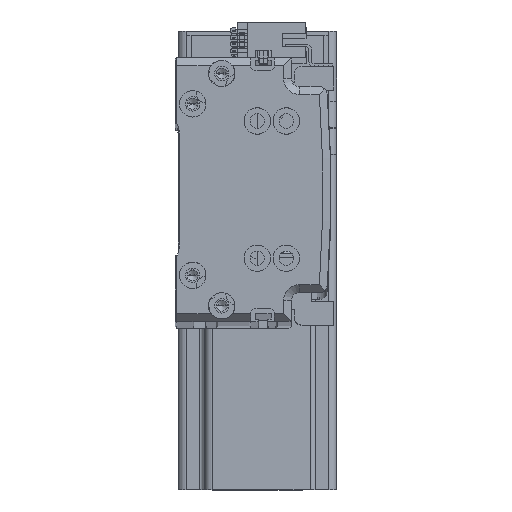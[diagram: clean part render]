
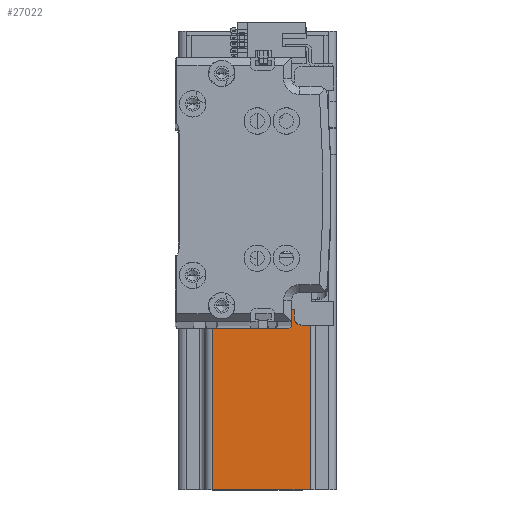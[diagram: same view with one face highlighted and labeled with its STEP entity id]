
A CAD part, top view. The second image highlights one B-rep face of the part: STEP entity #27022.
In plain terms, the highlighted planar face has unit normal (0, 0, 1) as drawn and (-1, 0, 0) by its records, which use the part's own axes.
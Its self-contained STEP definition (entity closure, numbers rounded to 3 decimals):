
#343 = ORIENTED_EDGE ( 'NONE', *, *, #8890, .T. ) ;
#3398 = CARTESIAN_POINT ( 'NONE',  ( -30., 20., 10. ) ) ;
#4178 = VECTOR ( 'NONE', #7564, 1000. ) ;
#4319 = FACE_OUTER_BOUND ( 'NONE', #12393, .T. ) ;
#5629 = VECTOR ( 'NONE', #38293, 1000. ) ;
#6383 = CARTESIAN_POINT ( 'NONE',  ( -30., -30., 10. ) ) ;
#7031 = DIRECTION ( 'NONE',  ( 0., -1., 0. ) ) ;
#7564 = DIRECTION ( 'NONE',  ( 0., 0., 1. ) ) ;
#8181 = EDGE_CURVE ( 'NONE', #11107, #53264, #37440, .T. ) ;
#8890 = EDGE_CURVE ( 'NONE', #45402, #52846, #51548, .T. ) ;
#9112 = ORIENTED_EDGE ( 'NONE', *, *, #11129, .T. ) ;
#11107 = VERTEX_POINT ( 'NONE', #17866 ) ;
#11129 = EDGE_CURVE ( 'NONE', #46734, #42732, #39733, .T. ) ;
#12393 = EDGE_LOOP ( 'NONE', ( #26849, #29474, #32841, #51259, #30036, #9112, #36995, #343 ) ) ;
#13025 = VECTOR ( 'NONE', #43933, 1000. ) ;
#13253 = DIRECTION ( 'NONE',  ( 0., 0., -1. ) ) ;
#13402 = VECTOR ( 'NONE', #7031, 1000. ) ;
#13500 = EDGE_CURVE ( 'NONE', #11107, #52846, #40798, .T. ) ;
#15375 = AXIS2_PLACEMENT_3D ( 'NONE', #54204, #26822, #58815 ) ;
#16521 = CARTESIAN_POINT ( 'NONE',  ( -30., -17., 137. ) ) ;
#16655 = VERTEX_POINT ( 'NONE', #51628 ) ;
#17866 = CARTESIAN_POINT ( 'NONE',  ( -30., -17., 10. ) ) ;
#18042 = EDGE_CURVE ( 'NONE', #42732, #45402, #30482, .T. ) ;
#19745 = CARTESIAN_POINT ( 'NONE',  ( -30., -17., 137. ) ) ;
#19747 = VECTOR ( 'NONE', #21623, 1000. ) ;
#21326 = CARTESIAN_POINT ( 'NONE',  ( -30., -27., 0. ) ) ;
#21623 = DIRECTION ( 'NONE',  ( 0., -1., 0. ) ) ;
#21701 = DIRECTION ( 'NONE',  ( 0., 0., 1. ) ) ;
#21913 = VERTEX_POINT ( 'NONE', #34546 ) ;
#24667 = CARTESIAN_POINT ( 'NONE',  ( -30., -27., 10. ) ) ;
#25650 = EDGE_CURVE ( 'NONE', #21913, #46734, #53353, .T. ) ;
#26106 = VECTOR ( 'NONE', #13253, 1000. ) ;
#26822 = DIRECTION ( 'NONE',  ( 1., 0., 0. ) ) ;
#26849 = ORIENTED_EDGE ( 'NONE', *, *, #13500, .F. ) ;
#27022 = ADVANCED_FACE ( 'NONE', ( #4319 ), #31209, .F. ) ;
#27756 = LINE ( 'NONE', #3398, #52133 ) ;
#29474 = ORIENTED_EDGE ( 'NONE', *, *, #8181, .T. ) ;
#30036 = ORIENTED_EDGE ( 'NONE', *, *, #25650, .T. ) ;
#30482 = LINE ( 'NONE', #58214, #19747 ) ;
#31209 = PLANE ( 'NONE',  #15375 ) ;
#32841 = ORIENTED_EDGE ( 'NONE', *, *, #42210, .F. ) ;
#33374 = CARTESIAN_POINT ( 'NONE',  ( -30., 27., 10. ) ) ;
#33730 = CARTESIAN_POINT ( 'NONE',  ( -30., 27., 0. ) ) ;
#34514 = CARTESIAN_POINT ( 'NONE',  ( -30., -30., 137. ) ) ;
#34546 = CARTESIAN_POINT ( 'NONE',  ( -30., 20., 10. ) ) ;
#36995 = ORIENTED_EDGE ( 'NONE', *, *, #18042, .T. ) ;
#37440 = LINE ( 'NONE', #16521, #13025 ) ;
#37794 = LINE ( 'NONE', #34514, #13402 ) ;
#38293 = DIRECTION ( 'NONE',  ( 0., -1., 0. ) ) ;
#38446 = DIRECTION ( 'NONE',  ( 0., 1., 0. ) ) ;
#39045 = CARTESIAN_POINT ( 'NONE',  ( -30., -27., 137. ) ) ;
#39733 = LINE ( 'NONE', #49903, #26106 ) ;
#40798 = LINE ( 'NONE', #6383, #5629 ) ;
#42210 = EDGE_CURVE ( 'NONE', #16655, #53264, #37794, .T. ) ;
#42732 = VERTEX_POINT ( 'NONE', #33730 ) ;
#43933 = DIRECTION ( 'NONE',  ( 0., 0., 1. ) ) ;
#45402 = VERTEX_POINT ( 'NONE', #21326 ) ;
#46734 = VERTEX_POINT ( 'NONE', #33374 ) ;
#49903 = CARTESIAN_POINT ( 'NONE',  ( -30., 27., 137. ) ) ;
#50147 = EDGE_CURVE ( 'NONE', #21913, #16655, #27756, .T. ) ;
#51259 = ORIENTED_EDGE ( 'NONE', *, *, #50147, .F. ) ;
#51548 = LINE ( 'NONE', #39045, #4178 ) ;
#51628 = CARTESIAN_POINT ( 'NONE',  ( -30., 20., 137. ) ) ;
#51963 = VECTOR ( 'NONE', #38446, 1000. ) ;
#52043 = CARTESIAN_POINT ( 'NONE',  ( -30., 30., 10. ) ) ;
#52133 = VECTOR ( 'NONE', #21701, 1000. ) ;
#52846 = VERTEX_POINT ( 'NONE', #24667 ) ;
#53264 = VERTEX_POINT ( 'NONE', #19745 ) ;
#53353 = LINE ( 'NONE', #52043, #51963 ) ;
#54204 = CARTESIAN_POINT ( 'NONE',  ( -30., -30., 137. ) ) ;
#58214 = CARTESIAN_POINT ( 'NONE',  ( -30., -30., 0. ) ) ;
#58815 = DIRECTION ( 'NONE',  ( 0., 0., -1. ) ) ;
